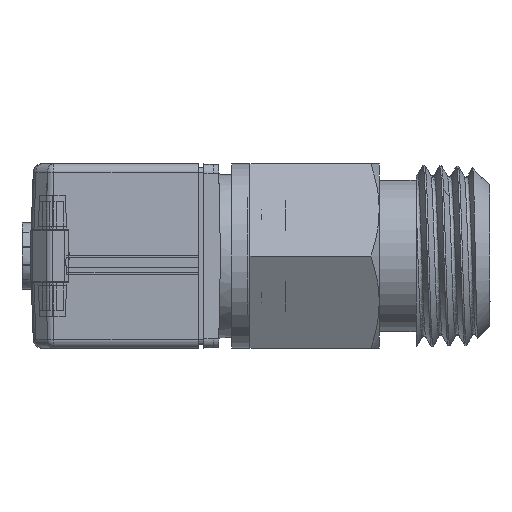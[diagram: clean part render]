
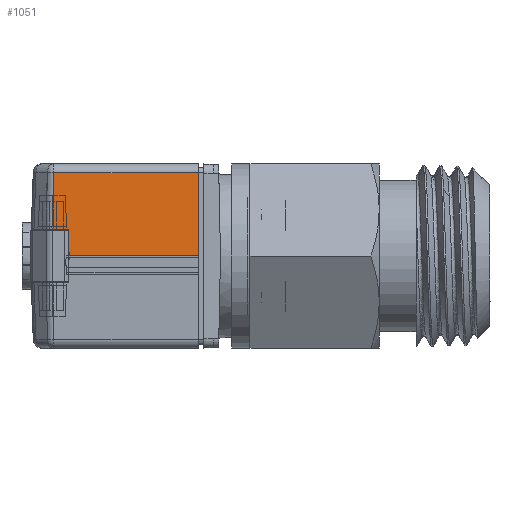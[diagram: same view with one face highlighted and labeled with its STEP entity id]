
A CAD part, left-side view. The second image highlights one B-rep face of the part: STEP entity #1051.
In plain terms, the highlighted planar face has unit normal (-0.999, 0, 0.035).
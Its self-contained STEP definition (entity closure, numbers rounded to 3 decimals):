
#1051=ADVANCED_FACE('',(#2476),#2477,.T.);
#2476=FACE_OUTER_BOUND('',#5718,.T.);
#2477=PLANE('',#5719);
#5718=EDGE_LOOP('',(#11600,#11601,#11602,#11603,#11604,#11605));
#5719=AXIS2_PLACEMENT_3D('',#11606,#11607,#11608);
#11600=ORIENTED_EDGE('',*,*,#16030,.T.);
#11601=ORIENTED_EDGE('',*,*,#15953,.T.);
#11602=ORIENTED_EDGE('',*,*,#15548,.F.);
#11603=ORIENTED_EDGE('',*,*,#15529,.F.);
#11604=ORIENTED_EDGE('',*,*,#15557,.T.);
#11605=ORIENTED_EDGE('',*,*,#16031,.T.);
#11606=CARTESIAN_POINT('',(-10.0,10.446,0.0));
#11607=DIRECTION('',(-0.999,0.0,0.035));
#11608=DIRECTION('',(0.0,1.0,0.0));
#15529=EDGE_CURVE('',#17938,#17940,#17941,.T.);
#15548=EDGE_CURVE('',#17940,#17968,#17969,.T.);
#15557=EDGE_CURVE('',#17938,#17982,#17984,.T.);
#15953=EDGE_CURVE('',#18608,#17968,#18613,.T.);
#16030=EDGE_CURVE('',#18730,#18608,#18731,.T.);
#16031=EDGE_CURVE('',#17982,#18730,#18732,.T.);
#17938=VERTEX_POINT('',#23813);
#17940=VERTEX_POINT('',#23816);
#17941=LINE('',#23817,#23818);
#17968=VERTEX_POINT('',#23854);
#17969=LINE('',#23855,#23856);
#17982=VERTEX_POINT('',#23873);
#17984=LINE('',#23876,#23877);
#18608=VERTEX_POINT('',#24956);
#18613=LINE('',#24962,#24963);
#18730=VERTEX_POINT('',#25216);
#18731=LINE('',#25217,#25218);
#18732=LINE('',#25219,#25220);
#23813=CARTESIAN_POINT('',(-9.949,7.039,1.45));
#23816=CARTESIAN_POINT('',(-9.949,7.872,1.45));
#23817=CARTESIAN_POINT('',(-9.949,7.039,1.45));
#23818=VECTOR('',#29412,1.0);
#23854=CARTESIAN_POINT('',(-9.842,7.828,4.517));
#23855=CARTESIAN_POINT('',(-9.949,7.872,1.45));
#23856=VECTOR('',#29434,1.0);
#23873=CARTESIAN_POINT('',(-10.0,6.999,0.));
#23876=CARTESIAN_POINT('',(-9.949,7.039,1.45));
#23877=VECTOR('',#29445,1.0);
#24956=CARTESIAN_POINT('',(-9.842,0.0,4.517));
#24962=CARTESIAN_POINT('',(-9.842,0.0,4.517));
#24963=VECTOR('',#29822,1.0);
#25216=CARTESIAN_POINT('',(-10.0,0.0,0.));
#25217=CARTESIAN_POINT('',(-10.0,0.0,0.));
#25218=VECTOR('',#29885,1.0);
#25219=CARTESIAN_POINT('',(-10.0,6.999,0.));
#25220=VECTOR('',#29886,1.0);
#29412=DIRECTION('',(0.,1.0,0.));
#29434=DIRECTION('',(0.035,-0.014,0.999));
#29445=DIRECTION('',(-0.035,-0.027,-0.999));
#29822=DIRECTION('',(0.0,1.0,0.));
#29885=DIRECTION('',(0.035,0.0,0.999));
#29886=DIRECTION('',(0.0,-1.0,0.));
